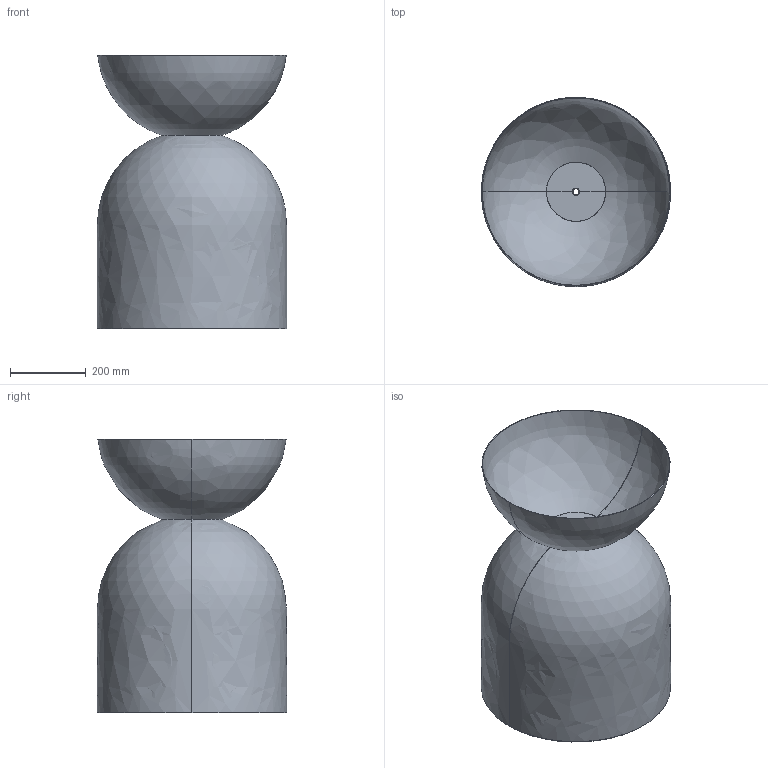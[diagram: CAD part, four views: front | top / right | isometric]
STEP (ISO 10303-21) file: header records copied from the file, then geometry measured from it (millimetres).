
FILE_DESCRIPTION(/* description */ (''),/* implementation_level */ '2;1');
FILE_NAME(/* name */ 'HDH5Z7~Q',/* time_stamp */ '2019-03-20T15:34:04+01:00',/* author */ (''),/* organization */ (''),/* preprocessor_version */ 'ST-DEVELOPER v16.5',/* originating_system */ '',/* authorisation */ '');
FILE_SCHEMA (('AUTOMOTIVE_DESIGN'));
Length unit declared in the file: millimetre
Products named in the file (1): Document
Bounding box: 500 x 500 x 721.77 mm (x, y, z)
Volume: 1739401 mm3; surface area: 2323948 mm2
Topology: 1 solids, 1 shells, 26 faces, 52 edges, 26 vertices
Faces by surface type: bspline 14, plane 12
Entity records: 791 total; most frequent: CARTESIAN_POINT 458, ORIENTED_EDGE 104, EDGE_CURVE 52, ADVANCED_FACE 26, FACE_OUTER_BOUND 26, EDGE_LOOP 26, VERTEX_POINT 26, DIRECTION 16
